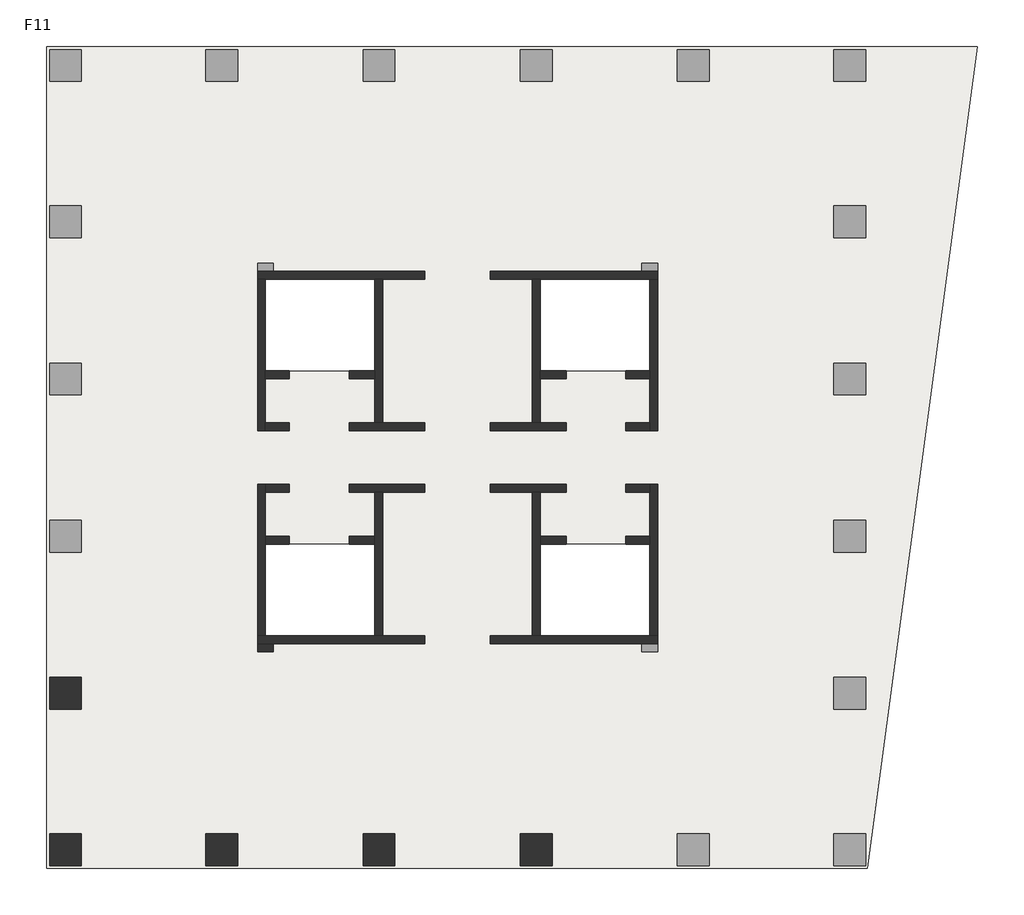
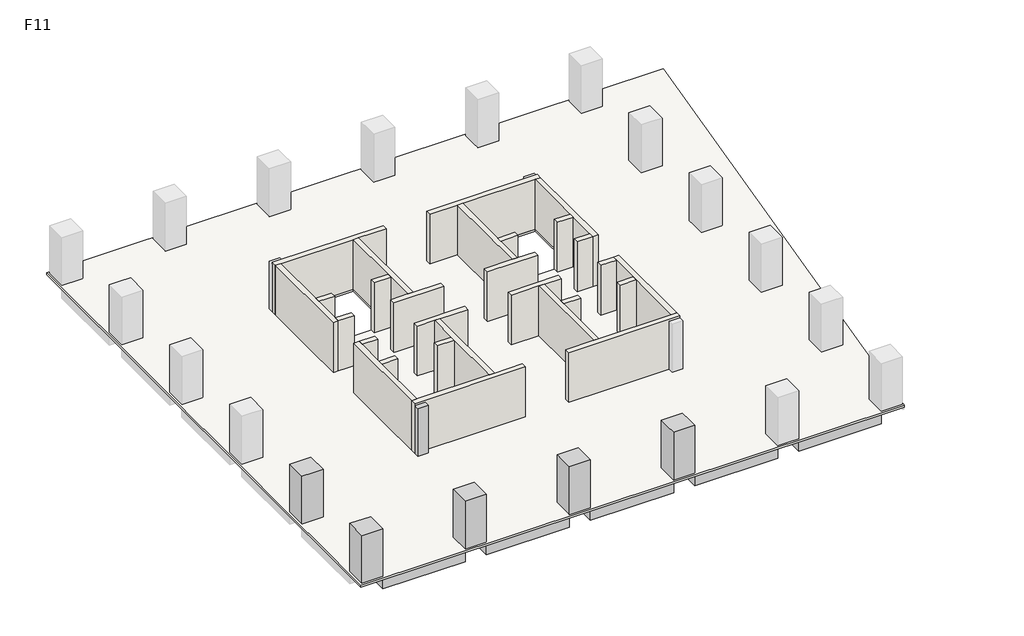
# One storey, part 1 of 2: 28 walls, 6 columns, 5 beams, 1 slab.
"""IFC4 building model written with IfcOpenShell, lengths in millimetres."""

from ifc_helpers import new_model, si_unit, frame, origin, place, context, project, spatial, polyline, outline, extrude, faceted_brep, element, save

model = new_model("IFC4")

# Units and contexts
model_context = context("Model", 3, world=origin())
ifc_project = project(units=[si_unit("LENGTHUNIT", "METRE", prefix="MILLI")], contexts=[model_context])

# Site, building, storey
site = spatial("IfcSite", under=ifc_project)
building = spatial("IfcBuilding", under=site)
storey = spatial("IfcBuildingStorey", under=building, Name="F11", Elevation=44000.0)

# Beams
placement = place(None, origin())
element("IfcBeam", 1, ObjectType="混凝土 - 矩形梁 : KL(5)-800x1000", at=placement, inside=storey, context=model_context, shape_type="SweptSolid", body=[
    extrude(outline(polyline([(-12472.6742169, -13948.9501342), (-12472.6742169, -13148.9501342), (-6222.6742169, -13148.9501342), (-6222.6742169, -13948.9501342), (-12472.6742169, -13948.9501342)])), frame((0.0, 0.0, 43000.0), z_axis=(0.0, 0.0, 1.0), x_axis=(1.0, 0.0, 0.0)), (0.0, 0.0, 1.0), 840.0),
    extrude(outline(polyline([(25327.3257831, -13148.9501342), (25327.3257831, -13948.9501342), (19077.3257831, -13948.9501342), (19077.3257831, -13148.9501342), (25327.3257831, -13148.9501342)])), frame((0.0, 0.0, 43000.0), z_axis=(0.0, 0.0, 1.0), x_axis=(1.0, 0.0, 0.0)), (0.0, 0.0, 1.0), 840.0),
    extrude(outline(polyline([(-4622.6742169, -13948.9501342), (-4622.6742169, -13148.9501342), (1677.3257831, -13148.9501342), (1677.3257831, -13948.9501342), (-4622.6742169, -13948.9501342)])), frame((0.0, 0.0, 43000.0), z_axis=(0.0, 0.0, 1.0), x_axis=(1.0, 0.0, 0.0)), (0.0, 0.0, 1.0), 840.0),
    extrude(outline(polyline([(3277.3257831, -13948.9501342), (3277.3257831, -13148.9501342), (9577.3257831, -13148.9501342), (9577.3257831, -13948.9501342), (3277.3257831, -13948.9501342)])), frame((0.0, 0.0, 43000.0), z_axis=(0.0, 0.0, 1.0), x_axis=(1.0, 0.0, 0.0)), (0.0, 0.0, 1.0), 840.0),
    extrude(outline(polyline([(11177.3257831, -13948.9501342), (11177.3257831, -13148.9501342), (17477.3257831, -13148.9501342), (17477.3257831, -13948.9501342), (11177.3257831, -13948.9501342)])), frame((0.0, 0.0, 43000.0), z_axis=(0.0, 0.0, 1.0), x_axis=(1.0, 0.0, 0.0)), (0.0, 0.0, 1.0), 840.0),
])
element("IfcBeam", 2, ObjectType="混凝土 - 矩形梁 : L1-800x500", at=placement, inside=storey, context=model_context, shape_type="Brep", body=[
    faceted_brep([(-12472.6742169, -5512.1353397, 43500.0), (-3746.9473979, -3341.556529, 43500.0), (-3173.6696907, -3198.9501342, 43500.0), (-3173.6696907, -3198.9501342, 43840.0), (-3746.9473979, -3341.556529, 43840.0), (-12472.6742169, -5512.1353397, 43840.0), (-3622.6742169, -3198.9501342, 43500.0), (-12472.6742169, -4687.7549784, 43500.0), (-3622.6742169, -2486.2624411, 43500.0), (-3622.6742169, -2798.9501342, 43500.0), (-12472.6742169, -4687.7549784, 43840.0), (-3622.6742169, -2486.2624411, 43840.0), (-3622.6742169, -3198.9501342, 43840.0)], [[[0, 1, 2, 3, 4, 5]], [[6, 2, 1, 0, 7, 8, 9]], [[8, 7, 10, 11]], [[2, 6, 12, 3]], [[9, 8, 11, 12, 6]], [[7, 0, 5, 10]], [[5, 4, 3, 12, 11, 10]]]),
])
element("IfcBeam", 3, ObjectType="混凝土 - 矩形梁 : L1-800x500", at=placement, inside=storey, context=model_context, shape_type="SweptSolid", body=[
    extrude(outline(polyline([(-3746.9473979, -3341.556529), (-3173.6696907, -3198.9501342), (-2898.7618154, -3198.9501342), (-4843.6893517, -12348.9501342), (-5661.5624638, -12348.9501342), (-3746.9473979, -3341.556529)])), frame((0.0, 0.0, 43500.0), z_axis=(0.0, 0.0, 1.0), x_axis=(1.0, 0.0, 0.0)), (0.0, 0.0, 1.0), 340.0),
])
element("IfcBeam", 4, ObjectType="混凝土 - 矩形梁 : L1-800x500", at=placement, inside=storey, context=model_context, shape_type="SweptSolid", body=[
    extrude(outline(polyline([(2877.3257831, -12348.9501342), (2077.3257831, -12348.9501342), (2077.3257831, -2798.9501342), (2877.3257831, -2798.9501342), (2877.3257831, -12348.9501342)])), frame((0.0, 0.0, 43500.0), z_axis=(0.0, 0.0, 1.0), x_axis=(1.0, 0.0, 0.0)), (0.0, 0.0, 1.0), 340.0),
])
element("IfcBeam", 5, ObjectType="混凝土 - 矩形梁 : L1-800x500", at=placement, inside=storey, context=model_context, shape_type="SweptSolid", body=[
    extrude(outline(polyline([(10777.3257831, -12348.9501342), (9977.3257831, -12348.9501342), (9977.3257831, -2798.9501342), (10777.3257831, -2798.9501342), (10777.3257831, -12348.9501342)])), frame((0.0, 0.0, 43500.0), z_axis=(0.0, 0.0, 1.0), x_axis=(1.0, 0.0, 0.0)), (0.0, 0.0, 1.0), 340.0),
])

# Columns
element("IfcColumn", 6, ObjectType="混凝土 - 矩形 - 柱 : Z1-1600x1600", at=placement, inside=storey, context=model_context, shape_type="Brep", body=[
    faceted_brep([(-12472.6742169, -4498.9501342, 44000.0), (-12472.6742169, -6098.9501342, 44000.0), (-14072.6742169, -6098.9501342, 44000.0), (-14072.6742169, -4498.9501342, 44000.0), (-12472.6742169, -4498.9501342, 47840.0), (-12472.6742169, -6098.9501342, 47840.0), (-13272.6742169, -6098.9501342, 47840.0), (-14072.6742169, -6098.9501342, 47840.0), (-14072.6742169, -6098.9501342, 47000.0), (-14072.6742169, -4498.9501342, 47840.0), (-14072.6742169, -4498.9501342, 47000.0), (-13272.6742169, -4498.9501342, 47840.0)], [[[0, 1, 2, 3]], [[1, 0, 4, 5]], [[2, 1, 5, 6, 7, 8]], [[3, 2, 8, 7, 9, 10]], [[0, 3, 10, 9, 11, 4]], [[5, 4, 11, 9, 7, 6]]]),
])
element("IfcColumn", 7, ObjectType="混凝土 - 矩形 - 柱 : Z1-1600x1600", at=placement, inside=storey, context=model_context, shape_type="SweptSolid", body=[
    extrude(outline(polyline([(-12472.6742169, -12348.9501342), (-12472.6742169, -13948.9501342), (-14072.6742169, -13948.9501342), (-14072.6742169, -12348.9501342), (-12472.6742169, -12348.9501342)])), frame((0.0, 0.0, 44000.0), z_axis=(0.0, 0.0, 1.0), x_axis=(1.0, 0.0, 0.0)), (0.0, 0.0, 1.0), 3840.0),
])
element("IfcColumn", 8, ObjectType="混凝土 - 矩形 - 柱 : Z1-1600x1600", at=placement, inside=storey, context=model_context, shape_type="Brep", body=[
    faceted_brep([(-4622.6742169, -12348.9501342, 44000.0), (-4622.6742169, -13948.9501342, 44000.0), (-6222.6742169, -13948.9501342, 44000.0), (-6222.6742169, -12348.9501342, 44000.0), (-4622.6742169, -12348.9501342, 47840.0), (-4622.6742169, -13148.9501342, 47840.0), (-4622.6742169, -13948.9501342, 47840.0), (-4622.6742169, -13948.9501342, 47000.0), (-6222.6742169, -13948.9501342, 47840.0), (-6222.6742169, -13948.9501342, 47000.0), (-6222.6742169, -13148.9501342, 47840.0), (-6222.6742169, -12348.9501342, 47840.0)], [[[0, 1, 2, 3]], [[1, 0, 4, 5, 6, 7]], [[2, 1, 7, 6, 8, 9]], [[3, 2, 9, 8, 10, 11]], [[0, 3, 11, 4]], [[6, 5, 4, 11, 10, 8]]]),
])
element("IfcColumn", 9, ObjectType="混凝土 - 矩形 - 柱 : Z1-1600x1600", at=placement, inside=storey, context=model_context, shape_type="Brep", body=[
    faceted_brep([(3277.3257831, -12348.9501342, 44000.0), (3277.3257831, -13948.9501342, 44000.0), (1677.3257831, -13948.9501342, 44000.0), (1677.3257831, -12348.9501342, 44000.0), (3277.3257831, -12348.9501342, 47840.0), (3277.3257831, -13148.9501342, 47840.0), (3277.3257831, -13948.9501342, 47840.0), (3277.3257831, -13948.9501342, 47000.0), (1677.3257831, -13948.9501342, 47840.0), (1677.3257831, -13948.9501342, 47000.0), (1677.3257831, -13148.9501342, 47840.0), (1677.3257831, -12348.9501342, 47840.0)], [[[0, 1, 2, 3]], [[1, 0, 4, 5, 6, 7]], [[2, 1, 7, 6, 8, 9]], [[3, 2, 9, 8, 10, 11]], [[0, 3, 11, 4]], [[6, 5, 4, 11, 10, 8]]]),
])
element("IfcColumn", 10, ObjectType="混凝土 - 矩形 - 柱 : Z1-1600x1600", at=placement, inside=storey, context=model_context, shape_type="Brep", body=[
    faceted_brep([(11177.3257831, -12348.9501342, 44000.0), (11177.3257831, -13948.9501342, 44000.0), (9577.3257831, -13948.9501342, 44000.0), (9577.3257831, -12348.9501342, 44000.0), (11177.3257831, -12348.9501342, 47840.0), (11177.3257831, -13148.9501342, 47840.0), (11177.3257831, -13948.9501342, 47840.0), (11177.3257831, -13948.9501342, 47000.0), (9577.3257831, -13948.9501342, 47840.0), (9577.3257831, -13948.9501342, 47000.0), (9577.3257831, -13148.9501342, 47840.0), (9577.3257831, -12348.9501342, 47840.0)], [[[0, 1, 2, 3]], [[1, 0, 4, 5, 6, 7]], [[2, 1, 7, 6, 8, 9]], [[3, 2, 9, 8, 10, 11]], [[0, 3, 11, 4]], [[6, 5, 4, 11, 10, 8]]]),
])
element("IfcColumn", 11, ObjectType="混凝土 - 矩形 - 柱 : Z2-800x800", at=placement, inside=storey, context=model_context, shape_type="SweptSolid", body=[
    extrude(outline(polyline([(-2822.6742169, -3198.9501342), (-3622.6742169, -3198.9501342), (-3622.6742169, -2798.9501342), (-2822.6742169, -2798.9501342), (-2822.6742169, -3198.9501342)])), frame((0.0, 0.0, 44000.0), z_axis=(0.0, 0.0, 1.0), x_axis=(1.0, 0.0, 0.0)), (0.0, 0.0, 1.0), 3840.0),
])

# Slab
element("IfcSlab", 12, ObjectType="LB-160", at=placement, inside=storey, context=model_context, shape_type="Brep", body=[
    faceted_brep([(32549.4477343, 27201.0498658, 43840.0), (32422.0087099, 26251.0498658, 43840.0), (27029.3257831, -13948.9501342, 43840.0), (27011.0393465, -14085.2672073, 43840.0), (-14222.6742169, -14085.2672073, 43840.0), (-14222.6742169, 27201.0498658, 43840.0), (2277.3257831, 15501.0498658, 43840.0), (-3222.6742169, 15501.0498658, 43840.0), (-3222.6742169, 10901.0498658, 43840.0), (2277.3257831, 10901.0498658, 43840.0), (2277.3257831, 2201.0498658, 43840.0), (-3222.6742169, 2201.0498658, 43840.0), (-3222.6742169, -2398.9501342, 43840.0), (2277.3257831, -2398.9501342, 43840.0), (16077.3257831, 2201.0498658, 43840.0), (10577.3257831, 2201.0498658, 43840.0), (10577.3257831, -2398.9501342, 43840.0), (16077.3257831, -2398.9501342, 43840.0), (16077.3257831, 15501.0498658, 43840.0), (10577.3257831, 15501.0498658, 43840.0), (10577.3257831, 10901.0498658, 43840.0), (16077.3257831, 10901.0498658, 43840.0), (32549.4477343, 27201.0498658, 44000.0), (-14222.6742169, 27201.0498658, 44000.0), (-14222.6742169, -14085.2672073, 44000.0), (27011.0393465, -14085.2672073, 44000.0), (2277.3257831, 15501.0498658, 44000.0), (2277.3257831, 10901.0498658, 44000.0), (-3222.6742169, 10901.0498658, 44000.0), (-3222.6742169, 15501.0498658, 44000.0), (2277.3257831, 2201.0498658, 44000.0), (2277.3257831, -2398.9501342, 44000.0), (-3222.6742169, -2398.9501342, 44000.0), (-3222.6742169, 2201.0498658, 44000.0), (16077.3257831, 2201.0498658, 44000.0), (16077.3257831, -2398.9501342, 44000.0), (10577.3257831, -2398.9501342, 44000.0), (10577.3257831, 2201.0498658, 44000.0), (16077.3257831, 15501.0498658, 44000.0), (16077.3257831, 10901.0498658, 44000.0), (10577.3257831, 10901.0498658, 44000.0), (10577.3257831, 15501.0498658, 44000.0)], [[[0, 1, 2, 3, 4, 5], [6, 7, 8, 9], [10, 11, 12, 13], [14, 15, 16, 17], [18, 19, 20, 21]], [[22, 23, 24, 25], [26, 27, 28, 29], [30, 31, 32, 33], [34, 35, 36, 37], [38, 39, 40, 41]], [[3, 2, 1, 0, 22, 25]], [[4, 3, 25, 24]], [[5, 4, 24, 23]], [[0, 5, 23, 22]], [[7, 6, 26, 29]], [[8, 7, 29, 28]], [[9, 8, 28, 27]], [[6, 9, 27, 26]], [[11, 10, 30, 33]], [[12, 11, 33, 32]], [[13, 12, 32, 31]], [[10, 13, 31, 30]], [[15, 14, 34, 37]], [[16, 15, 37, 36]], [[17, 16, 36, 35]], [[14, 17, 35, 34]], [[19, 18, 38, 41]], [[20, 19, 41, 40]], [[21, 20, 40, 39]], [[18, 21, 39, 38]]]),
])

# Walls
element("IfcWall", 13, ObjectType="剪力墙-400", at=placement, inside=storey, context=model_context, shape_type="Brep", body=[
    faceted_brep([(-3622.6742169, 15501.0498658, 44000.0), (-3222.6742169, 15501.0498658, 44000.0), (2277.3257831, 15501.0498658, 44000.0), (2677.3257831, 15501.0498658, 44000.0), (4777.3257831, 15501.0498658, 44000.0), (4777.3257831, 15501.0498658, 48000.0), (2677.3257831, 15501.0498658, 48000.0), (2277.3257831, 15501.0498658, 48000.0), (-3222.6742169, 15501.0498658, 48000.0), (-3622.6742169, 15501.0498658, 48000.0), (-3622.6742169, 15901.0498658, 44000.0), (-3622.6742169, 15901.0498658, 47840.0), (-3622.6742169, 15901.0498658, 48000.0), (4777.3257831, 15901.0498658, 48000.0), (4777.3257831, 15901.0498658, 44000.0), (-2822.6742169, 15901.0498658, 44000.0)], [[[0, 1, 2, 3, 4, 5, 6, 7, 8, 9]], [[10, 11, 12, 13, 14, 15]], [[4, 3, 2, 1, 0, 10, 15, 14]], [[5, 4, 14, 13]], [[9, 8, 7, 6, 5, 13, 12]], [[0, 9, 12, 11, 10]]]),
])
element("IfcWall", 14, ObjectType="剪力墙-400", at=placement, inside=storey, context=model_context, shape_type="Brep", body=[
    faceted_brep([(2277.3257831, 15501.0498658, 44000.0), (2277.3257831, 10901.0498658, 44000.0), (2277.3257831, 10501.0498658, 44000.0), (2277.3257831, 8301.0498658, 44000.0), (2277.3257831, 8301.0498658, 48000.0), (2277.3257831, 10501.0498658, 48000.0), (2277.3257831, 10901.0498658, 48000.0), (2277.3257831, 15501.0498658, 48000.0), (2677.3257831, 15501.0498658, 44000.0), (2677.3257831, 15501.0498658, 48000.0), (2677.3257831, 8301.0498658, 48000.0), (2677.3257831, 8301.0498658, 44000.0)], [[[0, 1, 2, 3, 4, 5, 6, 7]], [[8, 9, 10, 11]], [[3, 2, 1, 0, 8, 11]], [[7, 6, 5, 4, 10, 9]], [[0, 7, 9, 8]], [[4, 3, 11, 10]]]),
])
element("IfcWall", 15, ObjectType="剪力墙-400", at=placement, inside=storey, context=model_context, shape_type="Brep", body=[
    faceted_brep([(-3622.6742169, 15501.0498658, 44000.0), (-3622.6742169, 7901.0498658, 44000.0), (-3622.6742169, 7901.0498658, 48000.0), (-3622.6742169, 15501.0498658, 48000.0), (-3222.6742169, 15501.0498658, 44000.0), (-3222.6742169, 15501.0498658, 48000.0), (-3222.6742169, 10901.0498658, 48000.0), (-3222.6742169, 10501.0498658, 48000.0), (-3222.6742169, 8301.0498658, 48000.0), (-3222.6742169, 7901.0498658, 48000.0), (-3222.6742169, 7901.0498658, 44000.0), (-3222.6742169, 8301.0498658, 44000.0), (-3222.6742169, 10501.0498658, 44000.0), (-3222.6742169, 10901.0498658, 44000.0)], [[[0, 1, 2, 3]], [[4, 5, 6, 7, 8, 9, 10, 11, 12, 13]], [[1, 0, 4, 13, 12, 11, 10]], [[3, 2, 9, 8, 7, 6, 5]], [[0, 3, 5, 4]], [[2, 1, 10, 9]]]),
])
element("IfcWall", 16, ObjectType="剪力墙-400", at=placement, inside=storey, context=model_context, shape_type="SweptSolid", body=[
    extrude(outline(polyline([(-2022.6742169, 7901.0498658), (-3222.6742169, 7901.0498658), (-3222.6742169, 8301.0498658), (-2022.6742169, 8301.0498658), (-2022.6742169, 7901.0498658)])), frame((0.0, 0.0, 44000.0), z_axis=(0.0, 0.0, 1.0), x_axis=(1.0, 0.0, 0.0)), (0.0, 0.0, 1.0), 4000.0),
])
element("IfcWall", 17, ObjectType="剪力墙-400", at=placement, inside=storey, context=model_context, shape_type="Brep", body=[
    faceted_brep([(977.3257831, 7901.0498658, 44000.0), (4777.3257831, 7901.0498658, 44000.0), (4777.3257831, 7901.0498658, 48000.0), (977.3257831, 7901.0498658, 48000.0), (977.3257831, 8301.0498658, 44000.0), (977.3257831, 8301.0498658, 48000.0), (2277.3257831, 8301.0498658, 48000.0), (2677.3257831, 8301.0498658, 48000.0), (4777.3257831, 8301.0498658, 48000.0), (4777.3257831, 8301.0498658, 44000.0), (2677.3257831, 8301.0498658, 44000.0), (2277.3257831, 8301.0498658, 44000.0)], [[[0, 1, 2, 3]], [[4, 5, 6, 7, 8, 9, 10, 11]], [[1, 0, 4, 11, 10, 9]], [[2, 1, 9, 8]], [[3, 2, 8, 7, 6, 5]], [[0, 3, 5, 4]]]),
])
element("IfcWall", 18, ObjectType="剪力墙-400", at=placement, inside=storey, context=model_context, shape_type="SweptSolid", body=[
    extrude(outline(polyline([(-2022.6742169, 10501.0498658), (-3222.6742169, 10501.0498658), (-3222.6742169, 10901.0498658), (-2022.6742169, 10901.0498658), (-2022.6742169, 10501.0498658)])), frame((0.0, 0.0, 44000.0), z_axis=(0.0, 0.0, 1.0), x_axis=(1.0, 0.0, 0.0)), (0.0, 0.0, 1.0), 4000.0),
])
element("IfcWall", 19, ObjectType="剪力墙-400", at=placement, inside=storey, context=model_context, shape_type="SweptSolid", body=[
    extrude(outline(polyline([(2277.3257831, 10501.0498658), (977.3257831, 10501.0498658), (977.3257831, 10901.0498658), (2277.3257831, 10901.0498658), (2277.3257831, 10501.0498658)])), frame((0.0, 0.0, 44000.0), z_axis=(0.0, 0.0, 1.0), x_axis=(1.0, 0.0, 0.0)), (0.0, 0.0, 1.0), 4000.0),
])
element("IfcWall", 20, ObjectType="剪力墙-400", at=placement, inside=storey, context=model_context, shape_type="Brep", body=[
    faceted_brep([(16477.3257831, 15901.0498658, 44000.0), (15677.3257831, 15901.0498658, 44000.0), (8077.3257831, 15901.0498658, 44000.0), (8077.3257831, 15901.0498658, 48000.0), (16477.3257831, 15901.0498658, 48000.0), (16477.3257831, 15901.0498658, 47840.0), (16477.3257831, 15501.0498658, 44000.0), (16477.3257831, 15501.0498658, 48000.0), (16077.3257831, 15501.0498658, 48000.0), (10577.3257831, 15501.0498658, 48000.0), (10177.3257831, 15501.0498658, 48000.0), (8077.3257831, 15501.0498658, 48000.0), (8077.3257831, 15501.0498658, 44000.0), (10177.3257831, 15501.0498658, 44000.0), (10577.3257831, 15501.0498658, 44000.0), (16077.3257831, 15501.0498658, 44000.0)], [[[0, 1, 2, 3, 4, 5]], [[6, 7, 8, 9, 10, 11, 12, 13, 14, 15]], [[2, 1, 0, 6, 15, 14, 13, 12]], [[3, 2, 12, 11]], [[4, 3, 11, 10, 9, 8, 7]], [[0, 5, 4, 7, 6]]]),
])
element("IfcWall", 21, ObjectType="剪力墙-400", at=placement, inside=storey, context=model_context, shape_type="Brep", body=[
    faceted_brep([(10177.3257831, 15501.0498658, 44000.0), (10177.3257831, 8301.0498658, 44000.0), (10177.3257831, 8301.0498658, 48000.0), (10177.3257831, 15501.0498658, 48000.0), (10577.3257831, 15501.0498658, 44000.0), (10577.3257831, 15501.0498658, 48000.0), (10577.3257831, 10901.0498658, 48000.0), (10577.3257831, 10501.0498658, 48000.0), (10577.3257831, 8301.0498658, 48000.0), (10577.3257831, 8301.0498658, 44000.0), (10577.3257831, 10501.0498658, 44000.0), (10577.3257831, 10901.0498658, 44000.0)], [[[0, 1, 2, 3]], [[4, 5, 6, 7, 8, 9, 10, 11]], [[1, 0, 4, 11, 10, 9]], [[3, 2, 8, 7, 6, 5]], [[0, 3, 5, 4]], [[2, 1, 9, 8]]]),
])
element("IfcWall", 22, ObjectType="剪力墙-400", at=placement, inside=storey, context=model_context, shape_type="Brep", body=[
    faceted_brep([(16077.3257831, 15501.0498658, 44000.0), (16077.3257831, 10901.0498658, 44000.0), (16077.3257831, 10501.0498658, 44000.0), (16077.3257831, 8301.0498658, 44000.0), (16077.3257831, 7901.0498658, 44000.0), (16077.3257831, 7901.0498658, 48000.0), (16077.3257831, 8301.0498658, 48000.0), (16077.3257831, 10501.0498658, 48000.0), (16077.3257831, 10901.0498658, 48000.0), (16077.3257831, 15501.0498658, 48000.0), (16477.3257831, 15501.0498658, 44000.0), (16477.3257831, 15501.0498658, 48000.0), (16477.3257831, 7901.0498658, 48000.0), (16477.3257831, 7901.0498658, 44000.0)], [[[0, 1, 2, 3, 4, 5, 6, 7, 8, 9]], [[10, 11, 12, 13]], [[4, 3, 2, 1, 0, 10, 13]], [[9, 8, 7, 6, 5, 12, 11]], [[0, 9, 11, 10]], [[5, 4, 13, 12]]]),
])
element("IfcWall", 23, ObjectType="剪力墙-400", at=placement, inside=storey, context=model_context, shape_type="SweptSolid", body=[
    extrude(outline(polyline([(14877.3257831, 8301.0498658), (16077.3257831, 8301.0498658), (16077.3257831, 7901.0498658), (14877.3257831, 7901.0498658), (14877.3257831, 8301.0498658)])), frame((0.0, 0.0, 44000.0), z_axis=(0.0, 0.0, 1.0), x_axis=(1.0, 0.0, 0.0)), (0.0, 0.0, 1.0), 4000.0),
])
element("IfcWall", 24, ObjectType="剪力墙-400", at=placement, inside=storey, context=model_context, shape_type="Brep", body=[
    faceted_brep([(11877.3257831, 8301.0498658, 44000.0), (10577.3257831, 8301.0498658, 44000.0), (10177.3257831, 8301.0498658, 44000.0), (8077.3257831, 8301.0498658, 44000.0), (8077.3257831, 8301.0498658, 48000.0), (10177.3257831, 8301.0498658, 48000.0), (10577.3257831, 8301.0498658, 48000.0), (11877.3257831, 8301.0498658, 48000.0), (11877.3257831, 7901.0498658, 44000.0), (11877.3257831, 7901.0498658, 48000.0), (8077.3257831, 7901.0498658, 48000.0), (8077.3257831, 7901.0498658, 44000.0)], [[[0, 1, 2, 3, 4, 5, 6, 7]], [[8, 9, 10, 11]], [[3, 2, 1, 0, 8, 11]], [[4, 3, 11, 10]], [[7, 6, 5, 4, 10, 9]], [[0, 7, 9, 8]]]),
])
element("IfcWall", 25, ObjectType="剪力墙-400", at=placement, inside=storey, context=model_context, shape_type="SweptSolid", body=[
    extrude(outline(polyline([(14877.3257831, 10901.0498658), (16077.3257831, 10901.0498658), (16077.3257831, 10501.0498658), (14877.3257831, 10501.0498658), (14877.3257831, 10901.0498658)])), frame((0.0, 0.0, 44000.0), z_axis=(0.0, 0.0, 1.0), x_axis=(1.0, 0.0, 0.0)), (0.0, 0.0, 1.0), 4000.0),
])
element("IfcWall", 26, ObjectType="剪力墙-400", at=placement, inside=storey, context=model_context, shape_type="SweptSolid", body=[
    extrude(outline(polyline([(10577.3257831, 10901.0498658), (11877.3257831, 10901.0498658), (11877.3257831, 10501.0498658), (10577.3257831, 10501.0498658), (10577.3257831, 10901.0498658)])), frame((0.0, 0.0, 44000.0), z_axis=(0.0, 0.0, 1.0), x_axis=(1.0, 0.0, 0.0)), (0.0, 0.0, 1.0), 4000.0),
])
element("IfcWall", 27, ObjectType="剪力墙-400", at=placement, inside=storey, context=model_context, shape_type="Brep", body=[
    faceted_brep([(-3622.6742169, -2798.9501342, 44000.0), (-2822.6742169, -2798.9501342, 44000.0), (4777.3257831, -2798.9501342, 44000.0), (4777.3257831, -2798.9501342, 48000.0), (-3622.6742169, -2798.9501342, 48000.0), (-3622.6742169, -2798.9501342, 47840.0), (-3622.6742169, -2398.9501342, 44000.0), (-3622.6742169, -2398.9501342, 48000.0), (-3222.6742169, -2398.9501342, 48000.0), (2277.3257831, -2398.9501342, 48000.0), (2677.3257831, -2398.9501342, 48000.0), (4777.3257831, -2398.9501342, 48000.0), (4777.3257831, -2398.9501342, 44000.0), (2677.3257831, -2398.9501342, 44000.0), (2277.3257831, -2398.9501342, 44000.0), (-3222.6742169, -2398.9501342, 44000.0)], [[[0, 1, 2, 3, 4, 5]], [[6, 7, 8, 9, 10, 11, 12, 13, 14, 15]], [[2, 1, 0, 6, 15, 14, 13, 12]], [[3, 2, 12, 11]], [[4, 3, 11, 10, 9, 8, 7]], [[0, 5, 4, 7, 6]]]),
])
element("IfcWall", 28, ObjectType="剪力墙-400", at=placement, inside=storey, context=model_context, shape_type="Brep", body=[
    faceted_brep([(2677.3257831, -2398.9501342, 44000.0), (2677.3257831, 4801.0498658, 44000.0), (2677.3257831, 4801.0498658, 48000.0), (2677.3257831, -2398.9501342, 48000.0), (2277.3257831, -2398.9501342, 44000.0), (2277.3257831, -2398.9501342, 48000.0), (2277.3257831, 2201.0498658, 48000.0), (2277.3257831, 2601.0498658, 48000.0), (2277.3257831, 4801.0498658, 48000.0), (2277.3257831, 4801.0498658, 44000.0), (2277.3257831, 2601.0498658, 44000.0), (2277.3257831, 2201.0498658, 44000.0)], [[[0, 1, 2, 3]], [[4, 5, 6, 7, 8, 9, 10, 11]], [[1, 0, 4, 11, 10, 9]], [[3, 2, 8, 7, 6, 5]], [[0, 3, 5, 4]], [[2, 1, 9, 8]]]),
])
element("IfcWall", 29, ObjectType="剪力墙-400", at=placement, inside=storey, context=model_context, shape_type="Brep", body=[
    faceted_brep([(-3222.6742169, -2398.9501342, 44000.0), (-3222.6742169, 2201.0498658, 44000.0), (-3222.6742169, 2601.0498658, 44000.0), (-3222.6742169, 4801.0498658, 44000.0), (-3222.6742169, 5201.0498658, 44000.0), (-3222.6742169, 5201.0498658, 48000.0), (-3222.6742169, 4801.0498658, 48000.0), (-3222.6742169, 2601.0498658, 48000.0), (-3222.6742169, 2201.0498658, 48000.0), (-3222.6742169, -2398.9501342, 48000.0), (-3622.6742169, -2398.9501342, 44000.0), (-3622.6742169, -2398.9501342, 48000.0), (-3622.6742169, 5201.0498658, 48000.0), (-3622.6742169, 5201.0498658, 44000.0)], [[[0, 1, 2, 3, 4, 5, 6, 7, 8, 9]], [[10, 11, 12, 13]], [[4, 3, 2, 1, 0, 10, 13]], [[9, 8, 7, 6, 5, 12, 11]], [[0, 9, 11, 10]], [[5, 4, 13, 12]]]),
])
element("IfcWall", 30, ObjectType="剪力墙-400", at=placement, inside=storey, context=model_context, shape_type="SweptSolid", body=[
    extrude(outline(polyline([(-2022.6742169, 4801.0498658), (-3222.6742169, 4801.0498658), (-3222.6742169, 5201.0498658), (-2022.6742169, 5201.0498658), (-2022.6742169, 4801.0498658)])), frame((0.0, 0.0, 44000.0), z_axis=(0.0, 0.0, 1.0), x_axis=(1.0, 0.0, 0.0)), (0.0, 0.0, 1.0), 4000.0),
])
element("IfcWall", 31, ObjectType="剪力墙-400", at=placement, inside=storey, context=model_context, shape_type="Brep", body=[
    faceted_brep([(977.3257831, 4801.0498658, 44000.0), (2277.3257831, 4801.0498658, 44000.0), (2677.3257831, 4801.0498658, 44000.0), (4777.3257831, 4801.0498658, 44000.0), (4777.3257831, 4801.0498658, 48000.0), (2677.3257831, 4801.0498658, 48000.0), (2277.3257831, 4801.0498658, 48000.0), (977.3257831, 4801.0498658, 48000.0), (977.3257831, 5201.0498658, 44000.0), (977.3257831, 5201.0498658, 48000.0), (4777.3257831, 5201.0498658, 48000.0), (4777.3257831, 5201.0498658, 44000.0)], [[[0, 1, 2, 3, 4, 5, 6, 7]], [[8, 9, 10, 11]], [[3, 2, 1, 0, 8, 11]], [[4, 3, 11, 10]], [[7, 6, 5, 4, 10, 9]], [[0, 7, 9, 8]]]),
])
element("IfcWall", 32, ObjectType="剪力墙-400", at=placement, inside=storey, context=model_context, shape_type="SweptSolid", body=[
    extrude(outline(polyline([(-2022.6742169, 2201.0498658), (-3222.6742169, 2201.0498658), (-3222.6742169, 2601.0498658), (-2022.6742169, 2601.0498658), (-2022.6742169, 2201.0498658)])), frame((0.0, 0.0, 44000.0), z_axis=(0.0, 0.0, 1.0), x_axis=(1.0, 0.0, 0.0)), (0.0, 0.0, 1.0), 4000.0),
])
element("IfcWall", 33, ObjectType="剪力墙-400", at=placement, inside=storey, context=model_context, shape_type="SweptSolid", body=[
    extrude(outline(polyline([(2277.3257831, 2201.0498658), (977.3257831, 2201.0498658), (977.3257831, 2601.0498658), (2277.3257831, 2601.0498658), (2277.3257831, 2201.0498658)])), frame((0.0, 0.0, 44000.0), z_axis=(0.0, 0.0, 1.0), x_axis=(1.0, 0.0, 0.0)), (0.0, 0.0, 1.0), 4000.0),
])
element("IfcWall", 34, ObjectType="剪力墙-400", at=placement, inside=storey, context=model_context, shape_type="Brep", body=[
    faceted_brep([(16477.3257831, -2398.9501342, 44000.0), (16077.3257831, -2398.9501342, 44000.0), (10577.3257831, -2398.9501342, 44000.0), (10177.3257831, -2398.9501342, 44000.0), (8077.3257831, -2398.9501342, 44000.0), (8077.3257831, -2398.9501342, 48000.0), (10177.3257831, -2398.9501342, 48000.0), (10577.3257831, -2398.9501342, 48000.0), (16077.3257831, -2398.9501342, 48000.0), (16477.3257831, -2398.9501342, 48000.0), (16477.3257831, -2798.9501342, 44000.0), (16477.3257831, -2798.9501342, 47840.0), (16477.3257831, -2798.9501342, 48000.0), (8077.3257831, -2798.9501342, 48000.0), (8077.3257831, -2798.9501342, 44000.0), (15677.3257831, -2798.9501342, 44000.0)], [[[0, 1, 2, 3, 4, 5, 6, 7, 8, 9]], [[10, 11, 12, 13, 14, 15]], [[4, 3, 2, 1, 0, 10, 15, 14]], [[5, 4, 14, 13]], [[9, 8, 7, 6, 5, 13, 12]], [[0, 9, 12, 11, 10]]]),
])
element("IfcWall", 35, ObjectType="剪力墙-400", at=placement, inside=storey, context=model_context, shape_type="Brep", body=[
    faceted_brep([(10577.3257831, -2398.9501342, 44000.0), (10577.3257831, 2201.0498658, 44000.0), (10577.3257831, 2601.0498658, 44000.0), (10577.3257831, 4801.0498658, 44000.0), (10577.3257831, 4801.0498658, 48000.0), (10577.3257831, 2601.0498658, 48000.0), (10577.3257831, 2201.0498658, 48000.0), (10577.3257831, -2398.9501342, 48000.0), (10177.3257831, -2398.9501342, 44000.0), (10177.3257831, -2398.9501342, 48000.0), (10177.3257831, 4801.0498658, 48000.0), (10177.3257831, 4801.0498658, 44000.0)], [[[0, 1, 2, 3, 4, 5, 6, 7]], [[8, 9, 10, 11]], [[3, 2, 1, 0, 8, 11]], [[7, 6, 5, 4, 10, 9]], [[0, 7, 9, 8]], [[4, 3, 11, 10]]]),
])
element("IfcWall", 36, ObjectType="剪力墙-400", at=placement, inside=storey, context=model_context, shape_type="Brep", body=[
    faceted_brep([(16477.3257831, -2398.9501342, 44000.0), (16477.3257831, 5201.0498658, 44000.0), (16477.3257831, 5201.0498658, 48000.0), (16477.3257831, -2398.9501342, 48000.0), (16077.3257831, -2398.9501342, 44000.0), (16077.3257831, -2398.9501342, 48000.0), (16077.3257831, 2201.0498658, 48000.0), (16077.3257831, 2601.0498658, 48000.0), (16077.3257831, 4801.0498658, 48000.0), (16077.3257831, 5201.0498658, 48000.0), (16077.3257831, 5201.0498658, 44000.0), (16077.3257831, 4801.0498658, 44000.0), (16077.3257831, 2601.0498658, 44000.0), (16077.3257831, 2201.0498658, 44000.0)], [[[0, 1, 2, 3]], [[4, 5, 6, 7, 8, 9, 10, 11, 12, 13]], [[1, 0, 4, 13, 12, 11, 10]], [[3, 2, 9, 8, 7, 6, 5]], [[0, 3, 5, 4]], [[2, 1, 10, 9]]]),
])
element("IfcWall", 37, ObjectType="剪力墙-400", at=placement, inside=storey, context=model_context, shape_type="SweptSolid", body=[
    extrude(outline(polyline([(14877.3257831, 5201.0498658), (16077.3257831, 5201.0498658), (16077.3257831, 4801.0498658), (14877.3257831, 4801.0498658), (14877.3257831, 5201.0498658)])), frame((0.0, 0.0, 44000.0), z_axis=(0.0, 0.0, 1.0), x_axis=(1.0, 0.0, 0.0)), (0.0, 0.0, 1.0), 4000.0),
])
element("IfcWall", 38, ObjectType="剪力墙-400", at=placement, inside=storey, context=model_context, shape_type="Brep", body=[
    faceted_brep([(11877.3257831, 5201.0498658, 44000.0), (8077.3257831, 5201.0498658, 44000.0), (8077.3257831, 5201.0498658, 48000.0), (11877.3257831, 5201.0498658, 48000.0), (11877.3257831, 4801.0498658, 44000.0), (11877.3257831, 4801.0498658, 48000.0), (10577.3257831, 4801.0498658, 48000.0), (10177.3257831, 4801.0498658, 48000.0), (8077.3257831, 4801.0498658, 48000.0), (8077.3257831, 4801.0498658, 44000.0), (10177.3257831, 4801.0498658, 44000.0), (10577.3257831, 4801.0498658, 44000.0)], [[[0, 1, 2, 3]], [[4, 5, 6, 7, 8, 9, 10, 11]], [[1, 0, 4, 11, 10, 9]], [[2, 1, 9, 8]], [[3, 2, 8, 7, 6, 5]], [[0, 3, 5, 4]]]),
])
element("IfcWall", 39, ObjectType="剪力墙-400", at=placement, inside=storey, context=model_context, shape_type="SweptSolid", body=[
    extrude(outline(polyline([(14877.3257831, 2601.0498658), (16077.3257831, 2601.0498658), (16077.3257831, 2201.0498658), (14877.3257831, 2201.0498658), (14877.3257831, 2601.0498658)])), frame((0.0, 0.0, 44000.0), z_axis=(0.0, 0.0, 1.0), x_axis=(1.0, 0.0, 0.0)), (0.0, 0.0, 1.0), 4000.0),
])
element("IfcWall", 40, ObjectType="剪力墙-400", at=placement, inside=storey, context=model_context, shape_type="SweptSolid", body=[
    extrude(outline(polyline([(10577.3257831, 2601.0498658), (11877.3257831, 2601.0498658), (11877.3257831, 2201.0498658), (10577.3257831, 2201.0498658), (10577.3257831, 2601.0498658)])), frame((0.0, 0.0, 44000.0), z_axis=(0.0, 0.0, 1.0), x_axis=(1.0, 0.0, 0.0)), (0.0, 0.0, 1.0), 4000.0),
])

save(model, "model.ifc")
